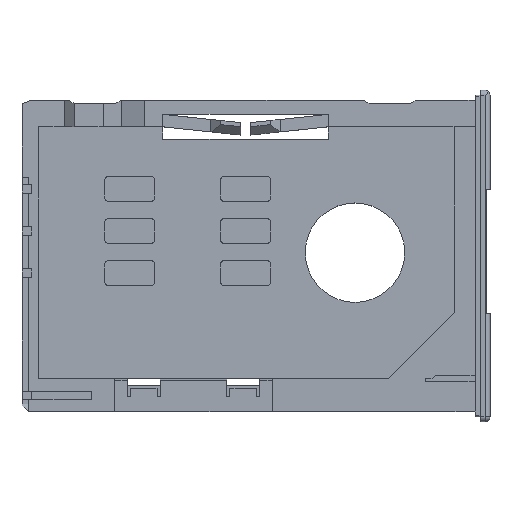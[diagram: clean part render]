
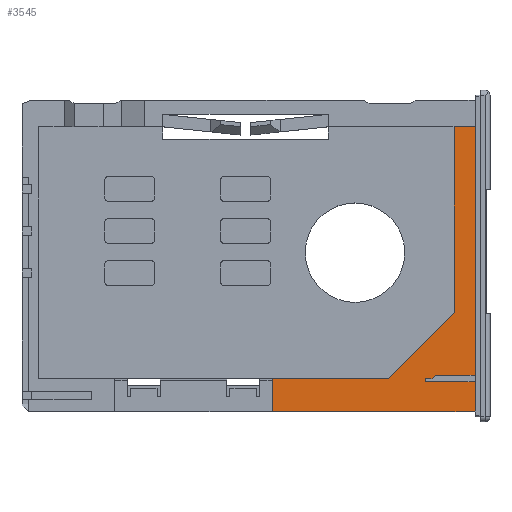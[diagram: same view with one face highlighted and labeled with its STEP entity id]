
A CAD part, top view. The second image highlights one B-rep face of the part: STEP entity #3545.
In plain terms, the highlighted planar face has unit normal (0, 0, 1).
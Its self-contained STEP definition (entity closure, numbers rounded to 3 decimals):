
#157=DIRECTION('',(-1.,0.,0.));
#158=VECTOR('',#157,2.4);
#159=CARTESIAN_POINT('',(-0.9,-7.2,2.));
#160=LINE('',#159,#158);
#161=DIRECTION('',(-0.707,-0.707,0.));
#162=VECTOR('',#161,0.283);
#163=CARTESIAN_POINT('',(-3.3,-7.2,2.));
#164=LINE('',#163,#162);
#165=DIRECTION('',(-1.,0.,0.));
#166=VECTOR('',#165,0.4);
#167=CARTESIAN_POINT('',(-3.5,-7.4,2.));
#168=LINE('',#167,#166);
#169=DIRECTION('',(0.,-1.,0.));
#170=VECTOR('',#169,0.2);
#171=CARTESIAN_POINT('',(-3.9,-7.4,2.));
#172=LINE('',#171,#170);
#173=DIRECTION('',(-1.,0.,0.));
#174=VECTOR('',#173,3.);
#175=CARTESIAN_POINT('',(-0.9,-7.6,2.));
#176=LINE('',#175,#174);
#177=DIRECTION('',(-1.,0.,0.));
#178=VECTOR('',#177,12.25);
#179=CARTESIAN_POINT('',(-0.9,-9.4,2.));
#180=LINE('',#179,#178);
#181=DIRECTION('',(0.,1.,0.));
#182=VECTOR('',#181,2.);
#183=CARTESIAN_POINT('',(-13.15,-9.4,2.));
#184=LINE('',#183,#182);
#185=DIRECTION('',(1.,0.,0.));
#186=VECTOR('',#185,7.);
#187=CARTESIAN_POINT('',(-13.15,-7.4,2.));
#188=LINE('',#187,#186);
#189=DIRECTION('',(0.707,0.707,0.));
#190=VECTOR('',#189,5.657);
#191=CARTESIAN_POINT('',(-6.15,-7.4,2.));
#192=LINE('',#191,#190);
#193=DIRECTION('',(0.,1.,0.));
#194=VECTOR('',#193,11.2);
#195=CARTESIAN_POINT('',(-2.15,-3.4,2.));
#196=LINE('',#195,#194);
#197=DIRECTION('',(-1.,0.,0.));
#198=VECTOR('',#197,1.25);
#199=CARTESIAN_POINT('',(-0.9,7.8,2.));
#200=LINE('',#199,#198);
#1565=DIRECTION('',(0.,1.,0.));
#1566=VECTOR('',#1565,15.);
#1567=CARTESIAN_POINT('',(-0.9,-7.2,2.));
#1568=LINE('',#1567,#1566);
#1601=DIRECTION('',(0.,1.,0.));
#1602=VECTOR('',#1601,1.8);
#1603=CARTESIAN_POINT('',(-0.9,-9.4,2.));
#1604=LINE('',#1603,#1602);
#2601=CARTESIAN_POINT('',(-6.15,-7.4,2.));
#2602=CARTESIAN_POINT('',(-2.15,-3.4,2.));
#2603=VERTEX_POINT('',#2601);
#2604=VERTEX_POINT('',#2602);
#2617=CARTESIAN_POINT('',(-13.15,-9.4,2.));
#2618=CARTESIAN_POINT('',(-13.15,-7.4,2.));
#2619=VERTEX_POINT('',#2617);
#2620=VERTEX_POINT('',#2618);
#2629=CARTESIAN_POINT('',(-0.9,-9.4,2.));
#2630=VERTEX_POINT('',#2629);
#2703=CARTESIAN_POINT('',(-0.9,7.8,2.));
#2705=VERTEX_POINT('',#2703);
#2709=CARTESIAN_POINT('',(-2.15,7.8,2.));
#2710=VERTEX_POINT('',#2709);
#2943=CARTESIAN_POINT('',(-0.9,-7.2,2.));
#2944=VERTEX_POINT('',#2943);
#2945=CARTESIAN_POINT('',(-0.9,-7.6,2.));
#2946=VERTEX_POINT('',#2945);
#2947=CARTESIAN_POINT('',(-3.3,-7.2,2.));
#2948=VERTEX_POINT('',#2947);
#2949=CARTESIAN_POINT('',(-3.5,-7.4,2.));
#2950=VERTEX_POINT('',#2949);
#2951=CARTESIAN_POINT('',(-3.9,-7.4,2.));
#2952=VERTEX_POINT('',#2951);
#2953=CARTESIAN_POINT('',(-3.9,-7.6,2.));
#2954=VERTEX_POINT('',#2953);
#3512=CARTESIAN_POINT('',(-0.9,-9.4,2.));
#3513=DIRECTION('',(0.,0.,1.));
#3514=DIRECTION('',(0.,1.,0.));
#3515=AXIS2_PLACEMENT_3D('',#3512,#3513,#3514);
#3516=PLANE('',#3515);
#3518=ORIENTED_EDGE('',*,*,#3517,.T.);
#3520=ORIENTED_EDGE('',*,*,#3519,.T.);
#3522=ORIENTED_EDGE('',*,*,#3521,.T.);
#3524=ORIENTED_EDGE('',*,*,#3523,.T.);
#3526=ORIENTED_EDGE('',*,*,#3525,.F.);
#3528=ORIENTED_EDGE('',*,*,#3527,.F.);
#3530=ORIENTED_EDGE('',*,*,#3529,.T.);
#3532=ORIENTED_EDGE('',*,*,#3531,.T.);
#3534=ORIENTED_EDGE('',*,*,#3533,.T.);
#3536=ORIENTED_EDGE('',*,*,#3535,.T.);
#3538=ORIENTED_EDGE('',*,*,#3537,.T.);
#3540=ORIENTED_EDGE('',*,*,#3539,.F.);
#3542=ORIENTED_EDGE('',*,*,#3541,.F.);
#3543=EDGE_LOOP('',(#3518,#3520,#3522,#3524,#3526,#3528,#3530,#3532,#3534,#3536,
#3538,#3540,#3542));
#3544=FACE_OUTER_BOUND('',#3543,.F.);
#3545=ADVANCED_FACE('',(#3544),#3516,.T.);
#3517=EDGE_CURVE('',#2944,#2948,#160,.T.);
#3519=EDGE_CURVE('',#2948,#2950,#164,.T.);
#3521=EDGE_CURVE('',#2950,#2952,#168,.T.);
#3523=EDGE_CURVE('',#2952,#2954,#172,.T.);
#3525=EDGE_CURVE('',#2946,#2954,#176,.T.);
#3527=EDGE_CURVE('',#2630,#2946,#1604,.T.);
#3529=EDGE_CURVE('',#2630,#2619,#180,.T.);
#3531=EDGE_CURVE('',#2619,#2620,#184,.T.);
#3533=EDGE_CURVE('',#2620,#2603,#188,.T.);
#3535=EDGE_CURVE('',#2603,#2604,#192,.T.);
#3537=EDGE_CURVE('',#2604,#2710,#196,.T.);
#3539=EDGE_CURVE('',#2705,#2710,#200,.T.);
#3541=EDGE_CURVE('',#2944,#2705,#1568,.T.);
